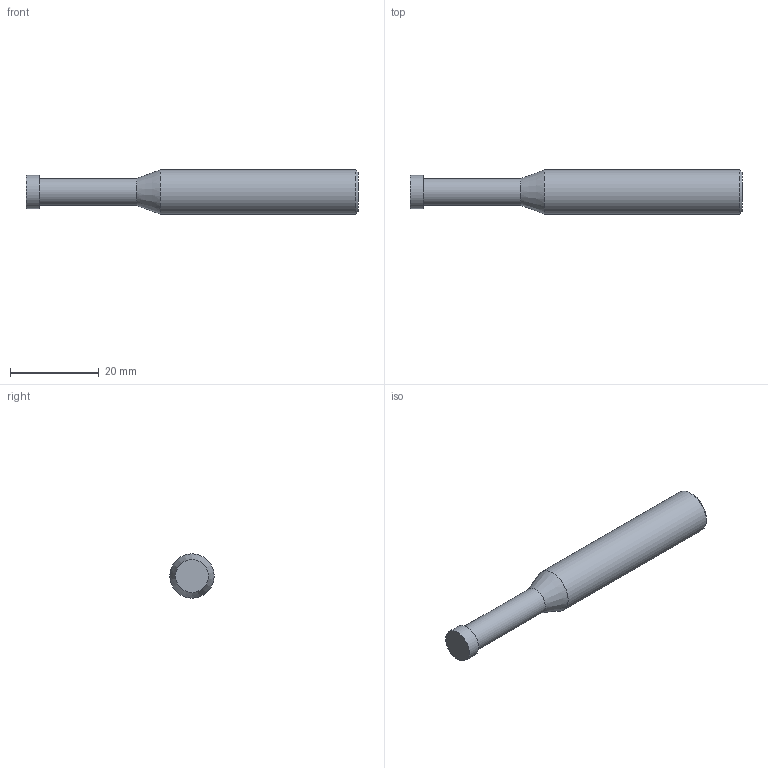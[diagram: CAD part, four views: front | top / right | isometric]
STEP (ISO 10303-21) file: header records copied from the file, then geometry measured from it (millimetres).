
FILE_DESCRIPTION(/* description */ (''),/* implementation_level */ '2;1');
FILE_NAME(/* name */ 'HSXDT-1.0-25 1075.stp',/* time_stamp */ '2026-02-24T09:07:55+08:00',/* author */ (''),/* organization */ (''),/* preprocessor_version */ 'ST-DEVELOPER v16',/* originating_system */ 'SIEMENS PLM Software NX 10.0',/* authorisation */ '');
FILE_SCHEMA (('CONFIG_CONTROL_DESIGN'));
Length unit declared in the file: millimetre
Products named in the file (1): HSXDT-1.0-25 1075_dxf
Bounding box: 75 x 10 x 10 mm (x, y, z)
Volume: 4555.9 mm3; surface area: 2167.1 mm2
Topology: 1 solids, 1 shells, 8 faces, 12 edges, 7 vertices
Faces by surface type: plane 3, cylinder 3, cone 2
Full cylindrical faces by diameter (mm): 6.1 x1, 7.5 x1, 10 x1
Entity records: 238 total; most frequent: DIRECTION 32, CARTESIAN_POINT 23, AXIS2_PLACEMENT_3D 16, EDGE_LOOP 14, ORIENTED_EDGE 14, FACE_BOUND 12, ADVANCED_FACE 8, PERSON_AND_ORGANIZATION 7
